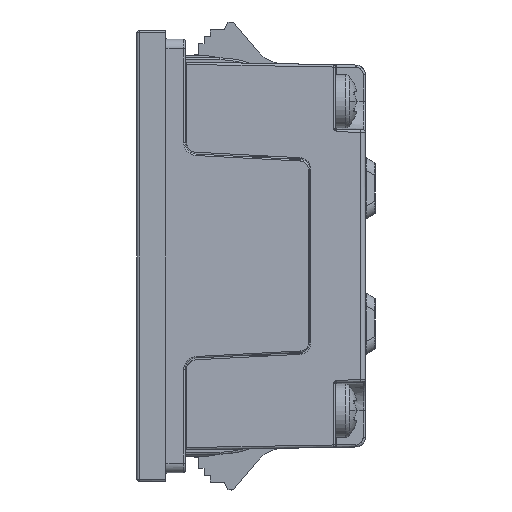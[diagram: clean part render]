
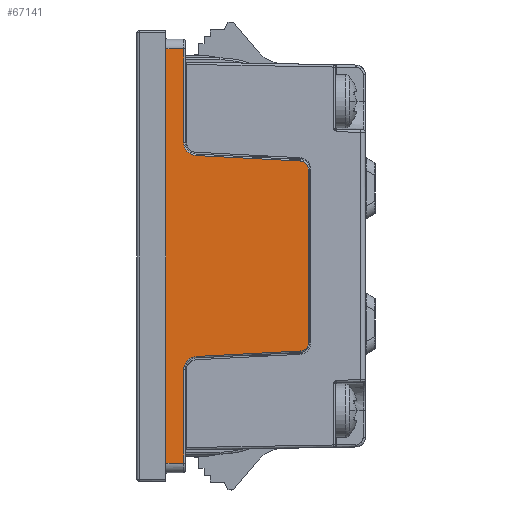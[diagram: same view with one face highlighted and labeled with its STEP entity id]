
A CAD part, left-side view. The second image highlights one B-rep face of the part: STEP entity #67141.
In plain terms, the highlighted planar face has unit normal (-1, -0.009, 0).
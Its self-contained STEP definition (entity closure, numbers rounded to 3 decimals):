
#254 = ORIENTED_EDGE ( 'NONE', *, *, #72752, .T. ) ;
#2914 = VECTOR ( 'NONE', #74167, 1000. ) ;
#4045 = CARTESIAN_POINT ( 'NONE',  ( -12.371, -14.751, -8.975 ) ) ;
#5155 = LINE ( 'NONE', #28774, #21344 ) ;
#6372 = VERTEX_POINT ( 'NONE', #56405 ) ;
#6777 = LINE ( 'NONE', #30390, #23379 ) ;
#8251 = VECTOR ( 'NONE', #46590, 1000. ) ;
#9754 =( BOUNDED_CURVE ( )  B_SPLINE_CURVE ( 3, ( #72412, #19373, #42989, #66589 ),
 .UNSPECIFIED., .F., .F. ) 
 B_SPLINE_CURVE_WITH_KNOTS ( ( 4, 4 ),
 ( 1.623, 3.142 ),
 .UNSPECIFIED. ) 
 CURVE ( )  GEOMETRIC_REPRESENTATION_ITEM ( )  RATIONAL_B_SPLINE_CURVE ( ( 1., 0.817, 0.817, 1. ) ) 
 REPRESENTATION_ITEM ( '' )  );
#9938 = VECTOR ( 'NONE', #13698, 1000. ) ;
#10974 = LINE ( 'NONE', #34573, #26522 ) ;
#12007 = CARTESIAN_POINT ( 'NONE',  ( -12.371, -14.751, 9.452 ) ) ;
#13506 = ORIENTED_EDGE ( 'NONE', *, *, #19651, .T. ) ;
#13545 = CARTESIAN_POINT ( 'NONE',  ( -12.374, -14.423, -9.799 ) ) ;
#13698 = DIRECTION ( 'NONE',  ( 0.009, -1., 0.017 ) ) ;
#14042 = EDGE_CURVE ( 'NONE', #57170, #14888, #43135, .T. ) ;
#14457 = VERTEX_POINT ( 'NONE', #4045 ) ;
#14826 = DIRECTION ( 'NONE',  ( 1., 0.009, 0. ) ) ;
#14888 = VERTEX_POINT ( 'NONE', #38053 ) ;
#15536 = VERTEX_POINT ( 'NONE', #18932 ) ;
#17619 = ORIENTED_EDGE ( 'NONE', *, *, #14042, .T. ) ;
#18199 = EDGE_CURVE ( 'NONE', #57170, #51451, #5155, .T. ) ;
#18361 = ORIENTED_EDGE ( 'NONE', *, *, #71538, .T. ) ;
#18596 = DIRECTION ( 'NONE',  ( -0.009, 0.999, 0.052 ) ) ;
#18932 = CARTESIAN_POINT ( 'NONE',  ( -12.378, -13.946, -9.824 ) ) ;
#19373 = CARTESIAN_POINT ( 'NONE',  ( -12.479, -2.373, 10.43 ) ) ;
#19651 = EDGE_CURVE ( 'NONE', #34555, #66181, #9754, .T. ) ;
#19856 = CARTESIAN_POINT ( 'NONE',  ( -12.484, -1.851, 11.739 ) ) ;
#20638 = FACE_OUTER_BOUND ( 'NONE', #58503, .T. ) ;
#21344 = VECTOR ( 'NONE', #52425, 1000. ) ;
#21419 = DIRECTION ( 'NONE',  ( 0., 0., 1. ) ) ;
#22961 = CARTESIAN_POINT ( 'NONE',  ( -12.475, -2.81, 21.401 ) ) ;
#23257 = CARTESIAN_POINT ( 'NONE',  ( -12.479, -2.373, -10.43 ) ) ;
#23379 = VECTOR ( 'NONE', #54027, 1000. ) ;
#24267 = ORIENTED_EDGE ( 'NONE', *, *, #52337, .T. ) ;
#24664 = EDGE_CURVE ( 'NONE', #14457, #28072, #6777, .T. ) ;
#26224 = VERTEX_POINT ( 'NONE', #47854 ) ;
#26522 = VECTOR ( 'NONE', #58191, 1000. ) ;
#26933 = LINE ( 'NONE', #50568, #2914 ) ;
#27854 = VECTOR ( 'NONE', #21419, 1000. ) ;
#28023 = CARTESIAN_POINT ( 'NONE',  ( -12.484, -1.851, -11.739 ) ) ;
#28072 = VERTEX_POINT ( 'NONE', #50644 ) ;
#28774 = CARTESIAN_POINT ( 'NONE',  ( -12.5, 0., -25. ) ) ;
#30390 = CARTESIAN_POINT ( 'NONE',  ( -12.371, -14.751, -25. ) ) ;
#31627 = CARTESIAN_POINT ( 'NONE',  ( -12.473, -3.131, 10.391 ) ) ;
#32894 = VERTEX_POINT ( 'NONE', #68981 ) ;
#34555 = VERTEX_POINT ( 'NONE', #31627 ) ;
#34573 = CARTESIAN_POINT ( 'NONE',  ( -12.378, -13.944, -9.824 ) ) ;
#35412 = CARTESIAN_POINT ( 'NONE',  ( -12.5, 0., -21.45 ) ) ;
#35600 = CARTESIAN_POINT ( 'NONE',  ( -12.374, -14.423, 9.799 ) ) ;
#37145 = CARTESIAN_POINT ( 'NONE',  ( -12.371, -14.751, -9.452 ) ) ;
#38053 = CARTESIAN_POINT ( 'NONE',  ( -12.484, -1.851, -21.418 ) ) ;
#38286 =( BOUNDED_CURVE ( )  B_SPLINE_CURVE ( 3, ( #66576, #13545, #37145, #60774 ),
 .UNSPECIFIED., .F., .F. ) 
 B_SPLINE_CURVE_WITH_KNOTS ( ( 4, 4 ),
 ( 1.623, 3.142 ),
 .UNSPECIFIED. ) 
 CURVE ( )  GEOMETRIC_REPRESENTATION_ITEM ( )  RATIONAL_B_SPLINE_CURVE ( ( 1., 0.817, 0.817, 1. ) ) 
 REPRESENTATION_ITEM ( '' )  );
#38437 = DIRECTION ( 'NONE',  ( -0.009, 1., 0. ) ) ;
#38696 = ORIENTED_EDGE ( 'NONE', *, *, #75151, .T. ) ;
#42989 = CARTESIAN_POINT ( 'NONE',  ( -12.484, -1.851, 10.98 ) ) ;
#43135 = LINE ( 'NONE', #66738, #9938 ) ;
#43526 = EDGE_CURVE ( 'NONE', #26224, #51451, #58188, .T. ) ;
#43997 = EDGE_CURVE ( 'NONE', #28072, #6372, #61156, .T. ) ;
#44256 = PLANE ( 'NONE',  #55140 ) ;
#46485 = VERTEX_POINT ( 'NONE', #28023 ) ;
#46590 = DIRECTION ( 'NONE',  ( -0.009, 1., 0.017 ) ) ;
#46879 = CARTESIAN_POINT ( 'NONE',  ( -12.473, -3.131, -10.391 ) ) ;
#47854 = CARTESIAN_POINT ( 'NONE',  ( -12.484, -1.851, 21.418 ) ) ;
#48026 = LINE ( 'NONE', #71640, #75498 ) ;
#50540 = ORIENTED_EDGE ( 'NONE', *, *, #18199, .F. ) ;
#50568 = CARTESIAN_POINT ( 'NONE',  ( -12.484, -1.851, -25. ) ) ;
#50644 = CARTESIAN_POINT ( 'NONE',  ( -12.371, -14.751, 8.975 ) ) ;
#50868 = LINE ( 'NONE', #74468, #27854 ) ;
#51451 = VERTEX_POINT ( 'NONE', #74402 ) ;
#52257 = EDGE_CURVE ( 'NONE', #46485, #32894, #73146, .T. ) ;
#52337 = EDGE_CURVE ( 'NONE', #6372, #34555, #48026, .T. ) ;
#52425 = DIRECTION ( 'NONE',  ( 0., 0., 1. ) ) ;
#52710 = CARTESIAN_POINT ( 'NONE',  ( -12.484, -1.851, -11.739 ) ) ;
#54027 = DIRECTION ( 'NONE',  ( 0., 0., 1. ) ) ;
#55140 = AXIS2_PLACEMENT_3D ( 'NONE', #67868, #14826, #38437 ) ;
#56405 = CARTESIAN_POINT ( 'NONE',  ( -12.378, -13.946, 9.824 ) ) ;
#56644 = ORIENTED_EDGE ( 'NONE', *, *, #70108, .T. ) ;
#57170 = VERTEX_POINT ( 'NONE', #35412 ) ;
#57379 = ORIENTED_EDGE ( 'NONE', *, *, #52257, .T. ) ;
#57745 = ORIENTED_EDGE ( 'NONE', *, *, #24664, .T. ) ;
#58188 = LINE ( 'NONE', #22961, #8251 ) ;
#58191 = DIRECTION ( 'NONE',  ( 0.009, -0.999, 0.052 ) ) ;
#58503 = EDGE_LOOP ( 'NONE', ( #13506, #56644, #72536, #50540, #17619, #38696, #57379, #18361, #254, #57745, #60458, #24267 ) ) ;
#59217 = CARTESIAN_POINT ( 'NONE',  ( -12.378, -13.946, 9.824 ) ) ;
#60458 = ORIENTED_EDGE ( 'NONE', *, *, #43997, .T. ) ;
#60774 = CARTESIAN_POINT ( 'NONE',  ( -12.371, -14.751, -8.975 ) ) ;
#61156 =( BOUNDED_CURVE ( )  B_SPLINE_CURVE ( 3, ( #65057, #12007, #35600, #59217 ),
 .UNSPECIFIED., .F., .F. ) 
 B_SPLINE_CURVE_WITH_KNOTS ( ( 4, 4 ),
 ( 3.142, 4.66 ),
 .UNSPECIFIED. ) 
 CURVE ( )  GEOMETRIC_REPRESENTATION_ITEM ( )  RATIONAL_B_SPLINE_CURVE ( ( 1., 0.817, 0.817, 1. ) ) 
 REPRESENTATION_ITEM ( '' )  );
#65057 = CARTESIAN_POINT ( 'NONE',  ( -12.371, -14.751, 8.975 ) ) ;
#66181 = VERTEX_POINT ( 'NONE', #19856 ) ;
#66576 = CARTESIAN_POINT ( 'NONE',  ( -12.378, -13.946, -9.824 ) ) ;
#66589 = CARTESIAN_POINT ( 'NONE',  ( -12.484, -1.851, 11.739 ) ) ;
#66738 = CARTESIAN_POINT ( 'NONE',  ( -12.483, -1.937, -21.416 ) ) ;
#67141 = ADVANCED_FACE ( 'NONE', ( #20638 ), #44256, .F. ) ;
#67868 = CARTESIAN_POINT ( 'NONE',  ( -12.483, -2., -25. ) ) ;
#68981 = CARTESIAN_POINT ( 'NONE',  ( -12.473, -3.131, -10.391 ) ) ;
#70108 = EDGE_CURVE ( 'NONE', #66181, #26224, #26933, .T. ) ;
#71538 = EDGE_CURVE ( 'NONE', #32894, #15536, #10974, .T. ) ;
#71640 = CARTESIAN_POINT ( 'NONE',  ( -12.473, -3.129, 10.391 ) ) ;
#72412 = CARTESIAN_POINT ( 'NONE',  ( -12.473, -3.131, 10.391 ) ) ;
#72536 = ORIENTED_EDGE ( 'NONE', *, *, #43526, .T. ) ;
#72752 = EDGE_CURVE ( 'NONE', #15536, #14457, #38286, .T. ) ;
#73146 =( BOUNDED_CURVE ( )  B_SPLINE_CURVE ( 3, ( #52710, #76303, #23257, #46879 ),
 .UNSPECIFIED., .F., .F. ) 
 B_SPLINE_CURVE_WITH_KNOTS ( ( 4, 4 ),
 ( 0., 1.518 ),
 .UNSPECIFIED. ) 
 CURVE ( )  GEOMETRIC_REPRESENTATION_ITEM ( )  RATIONAL_B_SPLINE_CURVE ( ( 1., 0.817, 0.817, 1. ) ) 
 REPRESENTATION_ITEM ( '' )  );
#74167 = DIRECTION ( 'NONE',  ( 0., 0., 1. ) ) ;
#74402 = CARTESIAN_POINT ( 'NONE',  ( -12.5, 0., 21.45 ) ) ;
#74468 = CARTESIAN_POINT ( 'NONE',  ( -12.484, -1.851, -25. ) ) ;
#75151 = EDGE_CURVE ( 'NONE', #14888, #46485, #50868, .T. ) ;
#75498 = VECTOR ( 'NONE', #18596, 1000. ) ;
#76303 = CARTESIAN_POINT ( 'NONE',  ( -12.484, -1.851, -10.98 ) ) ;
